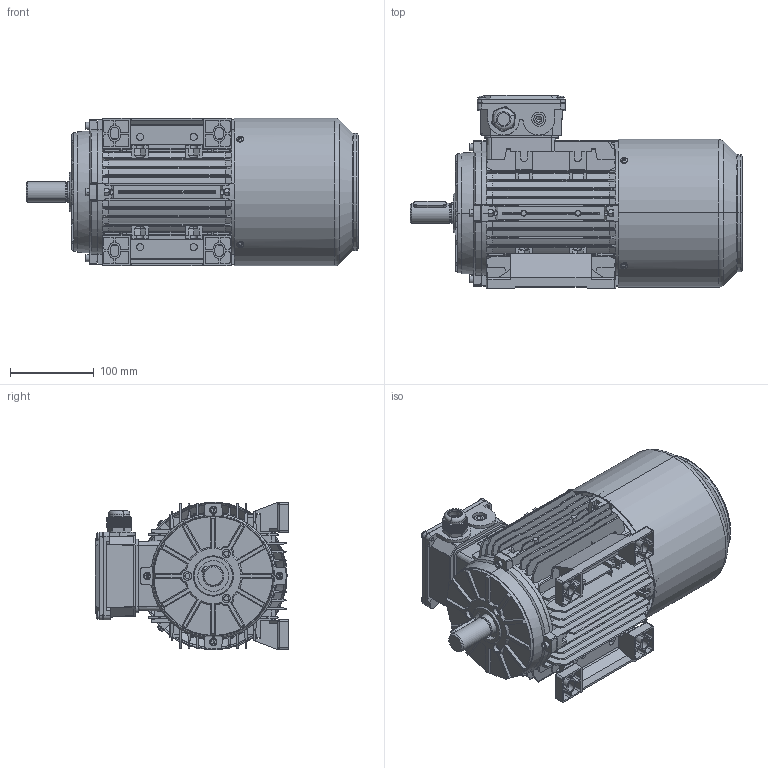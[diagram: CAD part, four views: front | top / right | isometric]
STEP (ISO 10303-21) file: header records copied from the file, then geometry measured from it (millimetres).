
FILE_DESCRIPTION (( 'STEP AP203' ), '1' );
FILE_NAME ('TB90L B3（风罩不带手柄孔）.STEP', '2021-10-21T07:33:43', ( '' ), ( '' ), 'SwSTEP 2.0', 'SolidWorks 2014', '' );
FILE_SCHEMA (( 'CONFIG_CONTROL_DESIGN' ));
Length unit declared in the file: millimetre
Products named in the file (16): Hexagon socket head cap screws GB_GB_FASTENER_SCREWS_HSHCS M5X25-N; 90怢宒瑞珔; 80-100堤盄蹟杶; TB90L B3（风罩不带手柄孔）; Plain parallel keys_GB_CONNECTING_PIECE_KEYS_CSK 8X40; TB90綴裔; Cross recessed thread forming screws GB_GB_CROSS_SCREWS_TYPE138 M4X12-N; TB90瑞欶ㄗ祥湍忒梟謂ㄘ; T90L儂褲; 陔諉盄碟釱80-100; Hexagon nuts grade C GB_GB_FASTENER_NUT_SNC1 M5-N; TB90L蛌粣; Cross recessed thread forming screws GB_GB_CROSS_SCREWS_TYPE138 M5X12-N; T90L菁褐; TA90ヶ裔1; 陔諉盄碟裔80-100
Assembly tree (36 placements, depth 2):
  TB90L B3（风罩不带手柄孔）
    T90L儂褲
    TA90ヶ裔1
    Plain parallel keys_GB_CONNECTING_PIECE_KEYS_CSK 8X40
    Hexagon nuts grade C GB_GB_FASTENER_NUT_SNC1 M5-N  x8
    Hexagon socket head cap screws GB_GB_FASTENER_SCREWS_HSHCS M5X25-N  x8
    Cross recessed thread forming screws GB_GB_CROSS_SCREWS_TYPE138 M4X12-N  x4
    Cross recessed thread forming screws GB_GB_CROSS_SCREWS_TYPE138 M5X12-N  x4
    80-100堤盄蹟杶
    陔諉盄碟釱80-100
    陔諉盄碟裔80-100
    TB90綴裔
    TB90L蛌粣
    90怢宒瑞珔
    TB90瑞欶ㄗ祥湍忒梟謂ㄘ
    T90L菁褐  x2
Bounding box: 397 x 231 x 176.6 mm (x, y, z)
Volume: 1442474.9 mm3; surface area: 954518.8 mm2
Topology: 36 solids, 36 shells, 3907 faces, 10552 edges, 6808 vertices
Faces by surface type: plane 2417, cylinder 1030, cone 245, torus 169, sphere 34, bspline 12
Entity records: 111774 total; most frequent: CARTESIAN_POINT 25674, ORIENTED_EDGE 18246, DIRECTION 16571, EDGE_CURVE 9123, VERTEX_POINT 5917, VECTOR 5845, LINE 5845, AXIS2_PLACEMENT_3D 5363
